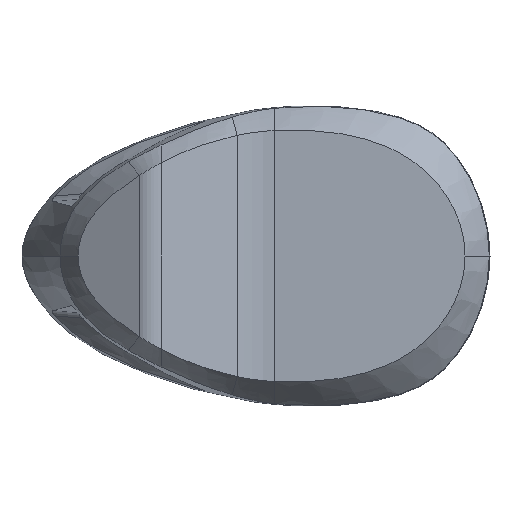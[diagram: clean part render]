
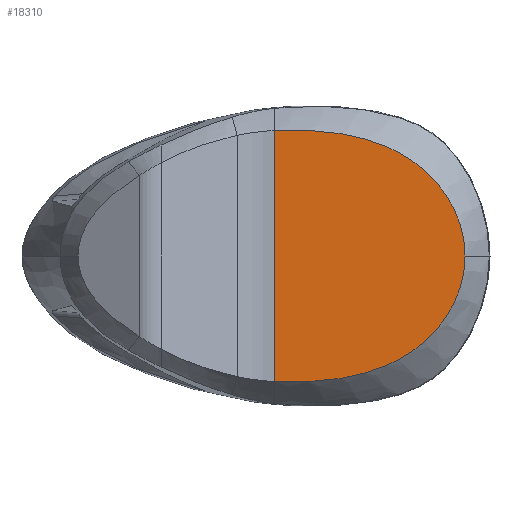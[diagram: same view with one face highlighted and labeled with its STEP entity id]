
A CAD part, front view. The second image highlights one B-rep face of the part: STEP entity #18310.
In plain terms, the highlighted planar face has unit normal (-0.056, -0.999, 0).
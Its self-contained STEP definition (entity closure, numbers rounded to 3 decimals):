
#4593=CARTESIAN_POINT('',(90.601,18.851,
0.));
#4594=CARTESIAN_POINT('',(90.601,18.851,2.3));
#4595=CARTESIAN_POINT('',(90.247,18.871,6.902));
#4596=CARTESIAN_POINT('',(88.673,18.958,13.639));
#4597=CARTESIAN_POINT('',(86.125,19.1,20.068));
#4598=CARTESIAN_POINT('',(82.706,19.29,26.077));
#4599=CARTESIAN_POINT('',(78.529,19.522,31.58));
#4600=CARTESIAN_POINT('',(73.695,19.791,36.514));
#4601=CARTESIAN_POINT('',(69.186,20.042,40.09));
#4602=CARTESIAN_POINT('',(65.342,20.256,42.611));
#4603=CARTESIAN_POINT('',(61.361,20.477,44.907));
#4604=CARTESIAN_POINT('',(56.161,20.767,47.362));
#4605=CARTESIAN_POINT('',(49.667,21.128,49.688));
#4606=CARTESIAN_POINT('',(43.001,21.498,51.454));
#4607=CARTESIAN_POINT('',(36.224,21.875,52.727));
#4608=CARTESIAN_POINT('',(29.379,22.256,53.566));
#4609=CARTESIAN_POINT('',(22.501,22.639,54.037));
#4610=CARTESIAN_POINT('',(15.606,23.022,54.168));
#4611=CARTESIAN_POINT('',(11.008,23.278,54.007));
#4612=CARTESIAN_POINT('',(8.714,23.405,53.861));
#4619=CARTESIAN_POINT('',(90.601,18.851,
0.));
#4629=CARTESIAN_POINT('',(90.601,18.851,
0.));
#4630=CARTESIAN_POINT('',(90.601,18.851,-2.3));
#4631=CARTESIAN_POINT('',(90.247,18.871,-6.902));
#4632=CARTESIAN_POINT('',(88.673,18.958,-13.639));
#4633=CARTESIAN_POINT('',(86.125,19.1,-20.068));
#4634=CARTESIAN_POINT('',(82.706,19.29,-26.077));
#4635=CARTESIAN_POINT('',(78.529,19.522,-31.58));
#4636=CARTESIAN_POINT('',(73.695,19.791,-36.514));
#4637=CARTESIAN_POINT('',(69.186,20.042,-40.09));
#4638=CARTESIAN_POINT('',(65.342,20.256,-42.611));
#4639=CARTESIAN_POINT('',(61.361,20.477,-44.907));
#4640=CARTESIAN_POINT('',(56.161,20.767,-47.362));
#4641=CARTESIAN_POINT('',(49.667,21.128,-49.688));
#4642=CARTESIAN_POINT('',(43.001,21.498,-51.454));
#4643=CARTESIAN_POINT('',(36.224,21.875,-52.727));
#4644=CARTESIAN_POINT('',(29.379,22.256,-53.566));
#4645=CARTESIAN_POINT('',(22.501,22.639,-54.037));
#4646=CARTESIAN_POINT('',(15.606,23.022,-54.168));
#4647=CARTESIAN_POINT('',(11.008,23.278,-54.007));
#4648=CARTESIAN_POINT('',(8.714,23.405,-53.861));
#4650=CARTESIAN_POINT('',(8.714,23.405,-53.861));
#4667=DIRECTION('',(0.,0.,-1.));
#4668=VECTOR('',#4667,107.721);
#4669=CARTESIAN_POINT('',(8.714,23.405,53.861));
#4670=LINE('',#4669,#4668);
#4748=CARTESIAN_POINT('',(8.714,23.405,53.861));
#4887=VERTEX_POINT('',#4650);
#5003=VERTEX_POINT('',#4748);
#5088=VERTEX_POINT('',#4619);
#18300=CARTESIAN_POINT('',(0.324,23.872,0.));
#18301=DIRECTION('',(0.056,0.998,0.));
#18302=DIRECTION('',(0.998,-0.056,0.));
#18303=AXIS2_PLACEMENT_3D('',#18300,#18301,#18302);
#18304=PLANE('',#18303);
#18305=ORIENTED_EDGE('',*,*,#17763,.F.);
#18306=ORIENTED_EDGE('',*,*,#17558,.F.);
#18307=ORIENTED_EDGE('',*,*,#17685,.T.);
#18308=EDGE_LOOP('',(#18305,#18306,#18307));
#18309=FACE_OUTER_BOUND('',#18308,.F.);
#4613=B_SPLINE_CURVE_WITH_KNOTS('',3,(#4593,#4594,#4595,#4596,#4597,#4598,#4599,
#4600,#4601,#4602,#4603,#4604,#4605,#4606,#4607,#4608,#4609,#4610,#4611,#4612),
.UNSPECIFIED.,.F.,.F.,(4,1,1,1,1,1,1,1,1,1,1,1,1,1,1,1,1,4),(0.,0.063,
0.125,0.188,0.25,0.313,0.375,0.438,0.469,0.5,
0.563,0.625,0.688,0.75,0.813,0.875,0.938,1.),
.UNSPECIFIED.);
#4649=B_SPLINE_CURVE_WITH_KNOTS('',3,(#4629,#4630,#4631,#4632,#4633,#4634,#4635,
#4636,#4637,#4638,#4639,#4640,#4641,#4642,#4643,#4644,#4645,#4646,#4647,#4648),
.UNSPECIFIED.,.F.,.F.,(4,1,1,1,1,1,1,1,1,1,1,1,1,1,1,1,1,4),(0.,0.063,
0.125,0.188,0.25,0.313,0.375,0.438,0.469,0.5,
0.563,0.625,0.688,0.75,0.813,0.875,0.938,1.),
.UNSPECIFIED.);
#17558=EDGE_CURVE('',#5088,#5003,#4613,.T.);
#17685=EDGE_CURVE('',#5088,#4887,#4649,.T.);
#17763=EDGE_CURVE('',#5003,#4887,#4670,.T.);
#18310=ADVANCED_FACE('',(#18309),#18304,.F.);
